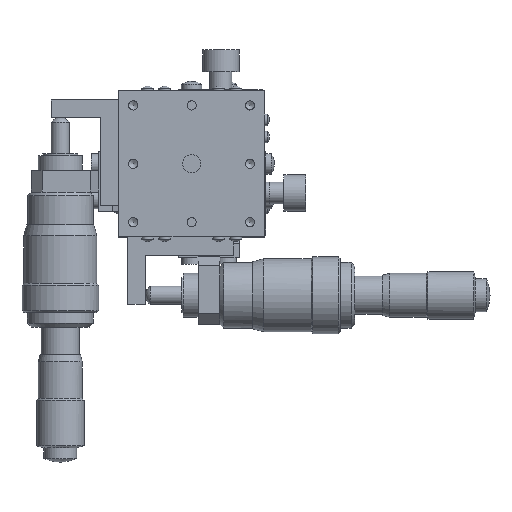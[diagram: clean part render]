
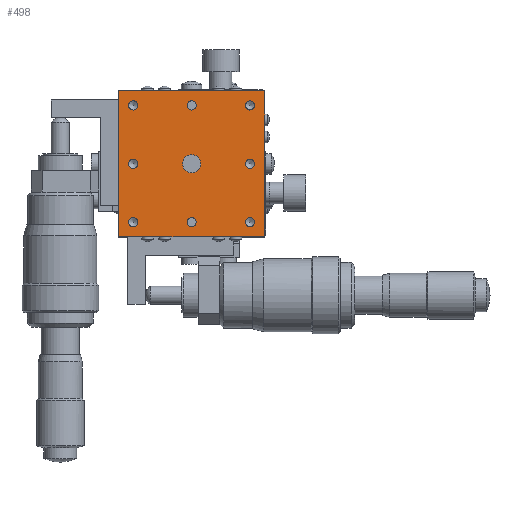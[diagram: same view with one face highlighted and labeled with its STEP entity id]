
A CAD part, top view. The second image highlights one B-rep face of the part: STEP entity #498.
In plain terms, the highlighted planar face has unit normal (0, 0, 1).
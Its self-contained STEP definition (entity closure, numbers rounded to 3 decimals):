
#498 = ADVANCED_FACE( '', ( #1323, #1324, #1325, #1326, #1327, #1328, #1329, #1330, #1331, #1332 ), #1333, .T. );
#1323 = FACE_BOUND( '', #2700, .T. );
#1324 = FACE_BOUND( '', #2701, .T. );
#1325 = FACE_BOUND( '', #2702, .T. );
#1326 = FACE_BOUND( '', #2703, .T. );
#1327 = FACE_BOUND( '', #2704, .T. );
#1328 = FACE_BOUND( '', #2705, .T. );
#1329 = FACE_BOUND( '', #2706, .T. );
#1330 = FACE_BOUND( '', #2707, .T. );
#1331 = FACE_OUTER_BOUND( '', #2708, .T. );
#1332 = FACE_BOUND( '', #2709, .T. );
#1333 = PLANE( '', #2710 );
#2700 = EDGE_LOOP( '', ( #4159 ) );
#2701 = EDGE_LOOP( '', ( #4160 ) );
#2702 = EDGE_LOOP( '', ( #4161 ) );
#2703 = EDGE_LOOP( '', ( #4162 ) );
#2704 = EDGE_LOOP( '', ( #4163 ) );
#2705 = EDGE_LOOP( '', ( #4164 ) );
#2706 = EDGE_LOOP( '', ( #4165 ) );
#2707 = EDGE_LOOP( '', ( #4166 ) );
#2708 = EDGE_LOOP( '', ( #4167, #4168, #4169, #4170 ) );
#2709 = EDGE_LOOP( '', ( #4171 ) );
#2710 = AXIS2_PLACEMENT_3D( '', #4172, #4173, #4174 );
#4159 = ORIENTED_EDGE( '', *, *, #6904, .T. );
#4160 = ORIENTED_EDGE( '', *, *, #6905, .T. );
#4161 = ORIENTED_EDGE( '', *, *, #6906, .T. );
#4162 = ORIENTED_EDGE( '', *, *, #6907, .T. );
#4163 = ORIENTED_EDGE( '', *, *, #6908, .T. );
#4164 = ORIENTED_EDGE( '', *, *, #6909, .T. );
#4165 = ORIENTED_EDGE( '', *, *, #6910, .T. );
#4166 = ORIENTED_EDGE( '', *, *, #6911, .T. );
#4167 = ORIENTED_EDGE( '', *, *, #6827, .T. );
#4168 = ORIENTED_EDGE( '', *, *, #6912, .F. );
#4169 = ORIENTED_EDGE( '', *, *, #6913, .F. );
#4170 = ORIENTED_EDGE( '', *, *, #6914, .F. );
#4171 = ORIENTED_EDGE( '', *, *, #6915, .T. );
#4172 = CARTESIAN_POINT( '', ( 0., 0., 40. ) );
#4173 = DIRECTION( '', ( 0., 0., 1. ) );
#4174 = DIRECTION( '', ( 1., 0., 0. ) );
#6827 = EDGE_CURVE( '', #7914, #7934, #7936, .T. );
#6904 = EDGE_CURVE( '', #8070, #8070, #8071, .T. );
#6905 = EDGE_CURVE( '', #8072, #8072, #8073, .T. );
#6906 = EDGE_CURVE( '', #8074, #8074, #8075, .T. );
#6907 = EDGE_CURVE( '', #8076, #8076, #8077, .T. );
#6908 = EDGE_CURVE( '', #8078, #8078, #8079, .T. );
#6909 = EDGE_CURVE( '', #8080, #8080, #8081, .T. );
#6910 = EDGE_CURVE( '', #8082, #8082, #8083, .T. );
#6911 = EDGE_CURVE( '', #8084, #8084, #8085, .T. );
#6912 = EDGE_CURVE( '', #8086, #7934, #8087, .T. );
#6913 = EDGE_CURVE( '', #8088, #8086, #8089, .T. );
#6914 = EDGE_CURVE( '', #7914, #8088, #8090, .T. );
#6915 = EDGE_CURVE( '', #8091, #8091, #8092, .T. );
#7914 = VERTEX_POINT( '', #9501 );
#7934 = VERTEX_POINT( '', #9531 );
#7936 = LINE( '', #9534, #9535 );
#8070 = VERTEX_POINT( '', #9698 );
#8071 = CIRCLE( '', #9699, 1.25 );
#8072 = VERTEX_POINT( '', #9700 );
#8073 = CIRCLE( '', #9701, 1.25 );
#8074 = VERTEX_POINT( '', #9702 );
#8075 = CIRCLE( '', #9703, 1.25 );
#8076 = VERTEX_POINT( '', #9704 );
#8077 = CIRCLE( '', #9705, 1.25 );
#8078 = VERTEX_POINT( '', #9706 );
#8079 = CIRCLE( '', #9707, 1.25 );
#8080 = VERTEX_POINT( '', #9708 );
#8081 = CIRCLE( '', #9709, 1.25 );
#8082 = VERTEX_POINT( '', #9710 );
#8083 = CIRCLE( '', #9711, 1.25 );
#8084 = VERTEX_POINT( '', #9712 );
#8085 = CIRCLE( '', #9713, 1.25 );
#8086 = VERTEX_POINT( '', #9714 );
#8087 = LINE( '', #9715, #9716 );
#8088 = VERTEX_POINT( '', #9717 );
#8089 = LINE( '', #9718, #9719 );
#8090 = LINE( '', #9720, #9721 );
#8091 = VERTEX_POINT( '', #9722 );
#8092 = CIRCLE( '', #9723, 2.5 );
#9501 = CARTESIAN_POINT( '', ( 20., 20., 40. ) );
#9531 = CARTESIAN_POINT( '', ( -20., 20., 40. ) );
#9534 = CARTESIAN_POINT( '', ( 0., 20., 40. ) );
#9535 = VECTOR( '', #11453, 1000. );
#9698 = CARTESIAN_POINT( '', ( -16., -1.25, 40. ) );
#9699 = AXIS2_PLACEMENT_3D( '', #11567, #11568, #11569 );
#9700 = CARTESIAN_POINT( '', ( -16., 14.75, 40. ) );
#9701 = AXIS2_PLACEMENT_3D( '', #11570, #11571, #11572 );
#9702 = CARTESIAN_POINT( '', ( 0., 14.75, 40. ) );
#9703 = AXIS2_PLACEMENT_3D( '', #11573, #11574, #11575 );
#9704 = CARTESIAN_POINT( '', ( 16., 14.75, 40. ) );
#9705 = AXIS2_PLACEMENT_3D( '', #11576, #11577, #11578 );
#9706 = CARTESIAN_POINT( '', ( 16., -1.25, 40. ) );
#9707 = AXIS2_PLACEMENT_3D( '', #11579, #11580, #11581 );
#9708 = CARTESIAN_POINT( '', ( 16., -17.25, 40. ) );
#9709 = AXIS2_PLACEMENT_3D( '', #11582, #11583, #11584 );
#9710 = CARTESIAN_POINT( '', ( 0., -17.25, 40. ) );
#9711 = AXIS2_PLACEMENT_3D( '', #11585, #11586, #11587 );
#9712 = CARTESIAN_POINT( '', ( -16., -17.25, 40. ) );
#9713 = AXIS2_PLACEMENT_3D( '', #11588, #11589, #11590 );
#9714 = CARTESIAN_POINT( '', ( -20., -20., 40. ) );
#9715 = CARTESIAN_POINT( '', ( -20., 0., 40. ) );
#9716 = VECTOR( '', #11591, 1000. );
#9717 = CARTESIAN_POINT( '', ( 20., -20., 40. ) );
#9718 = CARTESIAN_POINT( '', ( 0., -20., 40. ) );
#9719 = VECTOR( '', #11592, 1000. );
#9720 = CARTESIAN_POINT( '', ( 20., 0., 40. ) );
#9721 = VECTOR( '', #11593, 1000. );
#9722 = CARTESIAN_POINT( '', ( 0., -2.5, 40. ) );
#9723 = AXIS2_PLACEMENT_3D( '', #11594, #11595, #11596 );
#11453 = DIRECTION( '', ( -1., 0., 0. ) );
#11567 = CARTESIAN_POINT( '', ( -16., 0., 40. ) );
#11568 = DIRECTION( '', ( 0., 0., -1. ) );
#11569 = DIRECTION( '', ( 0., -1., 0. ) );
#11570 = CARTESIAN_POINT( '', ( -16., 16., 40. ) );
#11571 = DIRECTION( '', ( 0., 0., -1. ) );
#11572 = DIRECTION( '', ( 0., -1., 0. ) );
#11573 = CARTESIAN_POINT( '', ( 0., 16., 40. ) );
#11574 = DIRECTION( '', ( 0., 0., -1. ) );
#11575 = DIRECTION( '', ( 0., -1., 0. ) );
#11576 = CARTESIAN_POINT( '', ( 16., 16., 40. ) );
#11577 = DIRECTION( '', ( 0., 0., -1. ) );
#11578 = DIRECTION( '', ( 0., -1., 0. ) );
#11579 = CARTESIAN_POINT( '', ( 16., 0., 40. ) );
#11580 = DIRECTION( '', ( 0., 0., -1. ) );
#11581 = DIRECTION( '', ( 0., -1., 0. ) );
#11582 = CARTESIAN_POINT( '', ( 16., -16., 40. ) );
#11583 = DIRECTION( '', ( 0., 0., -1. ) );
#11584 = DIRECTION( '', ( 0., -1., 0. ) );
#11585 = CARTESIAN_POINT( '', ( 0., -16., 40. ) );
#11586 = DIRECTION( '', ( 0., 0., -1. ) );
#11587 = DIRECTION( '', ( 0., -1., 0. ) );
#11588 = CARTESIAN_POINT( '', ( -16., -16., 40. ) );
#11589 = DIRECTION( '', ( 0., 0., -1. ) );
#11590 = DIRECTION( '', ( 0., -1., 0. ) );
#11591 = DIRECTION( '', ( 0., 1., 0. ) );
#11592 = DIRECTION( '', ( -1., 0., 0. ) );
#11593 = DIRECTION( '', ( 0., -1., 0. ) );
#11594 = CARTESIAN_POINT( '', ( 0., 0., 40. ) );
#11595 = DIRECTION( '', ( 0., 0., -1. ) );
#11596 = DIRECTION( '', ( 0., -1., 0. ) );
